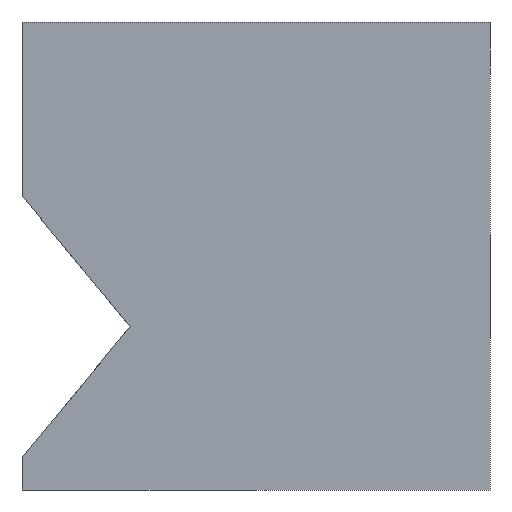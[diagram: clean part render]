
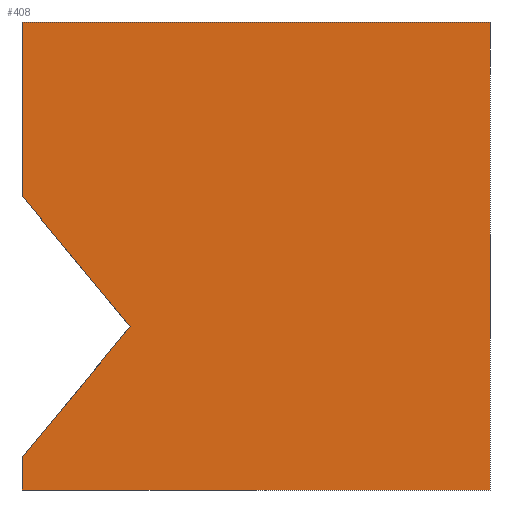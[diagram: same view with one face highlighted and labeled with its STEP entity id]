
A CAD part, left-side view. The second image highlights one B-rep face of the part: STEP entity #408.
In plain terms, the highlighted planar face has unit normal (-1, 0, 0).
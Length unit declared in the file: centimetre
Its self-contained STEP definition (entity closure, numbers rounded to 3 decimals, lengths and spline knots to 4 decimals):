
#2 = DIRECTION ( 'NONE',  ( 0., -1., 0. ) ) ;
#5 = AXIS2_PLACEMENT_3D ( 'NONE', #443, #446, #516 ) ;
#25 = ORIENTED_EDGE ( 'NONE', *, *, #223, .T. ) ;
#28 = CARTESIAN_POINT ( 'NONE',  ( 0., 1000., 0. ) ) ;
#53 = CARTESIAN_POINT ( 'NONE',  ( 0., 1000., 69.0675 ) ) ;
#78 = DIRECTION ( 'NONE',  ( 0., 0., -1. ) ) ;
#107 = VERTEX_POINT ( 'NONE', #488 ) ;
#126 = CARTESIAN_POINT ( 'NONE',  ( 0., 1000., 1000. ) ) ;
#130 = DIRECTION ( 'NONE',  ( 0., 0., -1. ) ) ;
#139 = ORIENTED_EDGE ( 'NONE', *, *, #422, .T. ) ;
#142 = VECTOR ( 'NONE', #78, 100. ) ;
#165 = CARTESIAN_POINT ( 'NONE',  ( 0., 1000., 1000. ) ) ;
#169 = ORIENTED_EDGE ( 'NONE', *, *, #263, .T. ) ;
#183 = EDGE_CURVE ( 'NONE', #107, #225, #727, .T. ) ;
#221 = DIRECTION ( 'NONE',  ( 0., -0.636, -0.771 ) ) ;
#223 = EDGE_CURVE ( 'NONE', #749, #310, #261, .T. ) ;
#225 = VERTEX_POINT ( 'NONE', #390 ) ;
#242 = FACE_OUTER_BOUND ( 'NONE', #648, .T. ) ;
#248 = DIRECTION ( 'NONE',  ( 0., 0., -1. ) ) ;
#252 = CARTESIAN_POINT ( 'NONE',  ( 0., 0., 1000. ) ) ;
#253 = PLANE ( 'NONE',  #5 ) ;
#255 = VECTOR ( 'NONE', #362, 100. ) ;
#259 = CARTESIAN_POINT ( 'NONE',  ( 0., 769.1551, 348.8158 ) ) ;
#261 = LINE ( 'NONE', #126, #676 ) ;
#263 = EDGE_CURVE ( 'NONE', #225, #768, #536, .T. ) ;
#267 = VECTOR ( 'NONE', #221, 100. ) ;
#310 = VERTEX_POINT ( 'NONE', #736 ) ;
#313 = EDGE_CURVE ( 'NONE', #749, #359, #816, .T. ) ;
#315 = ORIENTED_EDGE ( 'NONE', *, *, #313, .F. ) ;
#333 = EDGE_CURVE ( 'NONE', #310, #482, #459, .T. ) ;
#352 = ORIENTED_EDGE ( 'NONE', *, *, #183, .T. ) ;
#359 = VERTEX_POINT ( 'NONE', #493 ) ;
#362 = DIRECTION ( 'NONE',  ( 0., -1., 0. ) ) ;
#390 = CARTESIAN_POINT ( 'NONE',  ( 0., 1000., 0. ) ) ;
#408 = ADVANCED_FACE ( 'NONE', ( #242 ), #253, .F. ) ;
#422 = EDGE_CURVE ( 'NONE', #482, #107, #847, .T. ) ;
#443 = CARTESIAN_POINT ( 'NONE',  ( 0., 1000., 1000. ) ) ;
#446 = DIRECTION ( 'NONE',  ( 1., 0., 0. ) ) ;
#459 = LINE ( 'NONE', #259, #267 ) ;
#479 = CARTESIAN_POINT ( 'NONE',  ( 0., 1000., 1000. ) ) ;
#482 = VERTEX_POINT ( 'NONE', #781 ) ;
#485 = CARTESIAN_POINT ( 'NONE',  ( 0., 0., 0. ) ) ;
#488 = CARTESIAN_POINT ( 'NONE',  ( 0., 1000., 69.0675 ) ) ;
#493 = CARTESIAN_POINT ( 'NONE',  ( 0., 0., 1000. ) ) ;
#500 = VECTOR ( 'NONE', #717, 100. ) ;
#512 = EDGE_CURVE ( 'NONE', #359, #768, #650, .T. ) ;
#516 = DIRECTION ( 'NONE',  ( 0., 0., -1. ) ) ;
#536 = LINE ( 'NONE', #28, #697 ) ;
#579 = ORIENTED_EDGE ( 'NONE', *, *, #333, .T. ) ;
#634 = CARTESIAN_POINT ( 'NONE',  ( 0., 1000., 1000. ) ) ;
#648 = EDGE_LOOP ( 'NONE', ( #579, #139, #352, #169, #745, #315, #25 ) ) ;
#650 = LINE ( 'NONE', #252, #795 ) ;
#676 = VECTOR ( 'NONE', #130, 100. ) ;
#697 = VECTOR ( 'NONE', #2, 100. ) ;
#717 = DIRECTION ( 'NONE',  ( 0., 0.636, -0.771 ) ) ;
#727 = LINE ( 'NONE', #479, #142 ) ;
#736 = CARTESIAN_POINT ( 'NONE',  ( 0., 1000., 628.5641 ) ) ;
#745 = ORIENTED_EDGE ( 'NONE', *, *, #512, .F. ) ;
#749 = VERTEX_POINT ( 'NONE', #165 ) ;
#768 = VERTEX_POINT ( 'NONE', #485 ) ;
#781 = CARTESIAN_POINT ( 'NONE',  ( 0., 769.1551, 348.8158 ) ) ;
#795 = VECTOR ( 'NONE', #248, 100. ) ;
#816 = LINE ( 'NONE', #634, #255 ) ;
#847 = LINE ( 'NONE', #53, #500 ) ;
